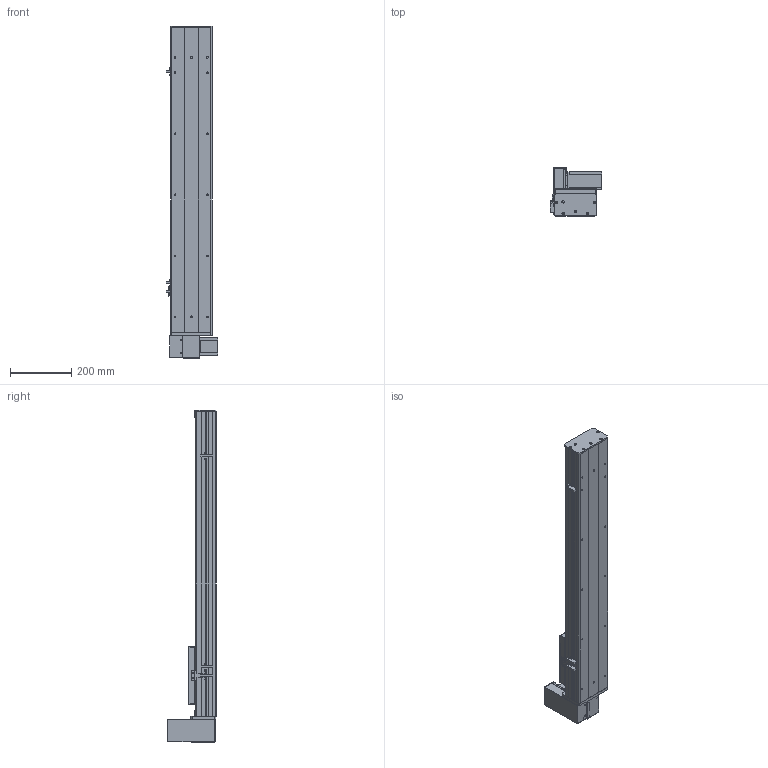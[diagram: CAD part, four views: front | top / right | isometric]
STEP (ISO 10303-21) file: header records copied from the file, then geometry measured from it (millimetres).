
FILE_DESCRIPTION (( 'STEP AP203' ), '1' );
FILE_NAME ('Y135CB-D90-S700-UR-P400W.STEP', '2020-02-18T03:58:10', ( '微软用户' ), ( '微软中国' ), 'SwSTEP 2.0', 'SolidWorks 2017', '' );
FILE_SCHEMA (( 'CONFIG_CONTROL_DESIGN' ));
Length unit declared in the file: millimetre
Products named in the file (18): Y135CB-D90-S700-UR-P400W; 135CB--詩湍-CE; 135CB---遴掛极.-; Y100-135俋离換覜ん--; 35CB---喘謫眊楊擘啣; Y135C-陔俋离換覜結え-; 0B-埴倛裔啣; 5C--俋欶; 0B-源倛裔啣; C-雄赽釱--; 0B-萇儂楊擘啣; Y10B--々湍喘謫眊--666; san松下电机400不带刹车----; Y10B-耜蚾蟀諉啣----; 5CB --掛极耜裔啣-; 00B-俋欶BM--; C-詩湍揤踡え-陔; Y135CB-耜裔
Assembly tree (21 placements, depth 2):
  Y135CB-D90-S700-UR-P400W
    Y135CB-耜裔
    135CB---遴掛极.-
    35CB---喘謫眊楊擘啣
    0B-埴倛裔啣
    0B-源倛裔啣
    0B-萇儂楊擘啣
    san松下电机400不带刹车----
    5CB --掛极耜裔啣-  x2
    C-詩湍揤踡え-陔  x2
    135CB--詩湍-CE
    Y100-135俋离換覜ん--  x3
    Y135C-陔俋离換覜結え-
    5C--俋欶
    C-雄赽釱--
    Y10B--々湍喘謫眊--666
    Y10B-耜蚾蟀諉啣----
    00B-俋欶BM--
Bounding box: 167.5 x 158.7 x 1088 mm (x, y, z)
Volume: 3607265.4 mm3; surface area: 1403515.1 mm2
Topology: 21 solids, 21 shells, 941 faces, 2509 edges, 1662 vertices
Faces by surface type: cylinder 469, plane 456, cone 16
Entity records: 29147 total; most frequent: DIRECTION 4841, CARTESIAN_POINT 4768, ORIENTED_EDGE 4494, EDGE_CURVE 2247, AXIS2_PLACEMENT_3D 1763, VERTEX_POINT 1490, LINE 1315, VECTOR 1315
